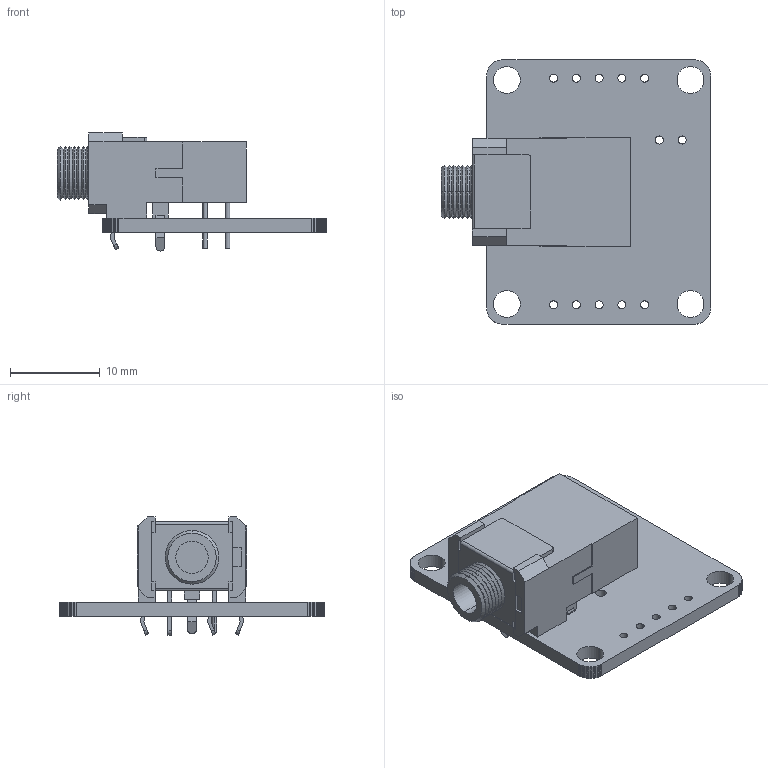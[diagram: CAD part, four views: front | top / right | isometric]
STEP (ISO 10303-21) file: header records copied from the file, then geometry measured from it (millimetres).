
FILE_DESCRIPTION (( 'STEP AP214' ), '1' );
FILE_NAME ('TU_EASYHP_V1.0.STEP', '2021-06-19T18:42:44', ( '' ), ( '' ), 'SwSTEP 2.0', 'SolidWorks 2020', '' );
FILE_SCHEMA (( 'AUTOMOTIVE_DESIGN' ));
Length unit declared in the file: millimetre
Products named in the file (3): 306; TU_EASYHP_V1.0; TU_EASYHP_V1.0_PCB
Assembly tree (2 placements, depth 2):
  TU_EASYHP_V1.0
    TU_EASYHP_V1.0_PCB
    306
Bounding box: 30.05 x 29.5 x 13.17 mm (x, y, z)
Volume: 2700.8 mm3; surface area: 2931.2 mm2
Topology: 7 solids, 7 shells, 403 faces, 1068 edges, 696 vertices
Faces by surface type: plane 253, cylinder 122, cone 28
Entity records: 13780 total; most frequent: CARTESIAN_POINT 2172, DIRECTION 2156, ORIENTED_EDGE 2136, EDGE_CURVE 1068, LINE 796, VECTOR 796, VERTEX_POINT 696, AXIS2_PLACEMENT_3D 680
